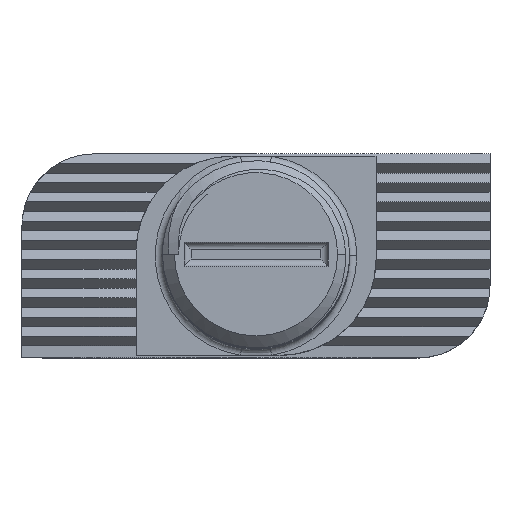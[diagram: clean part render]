
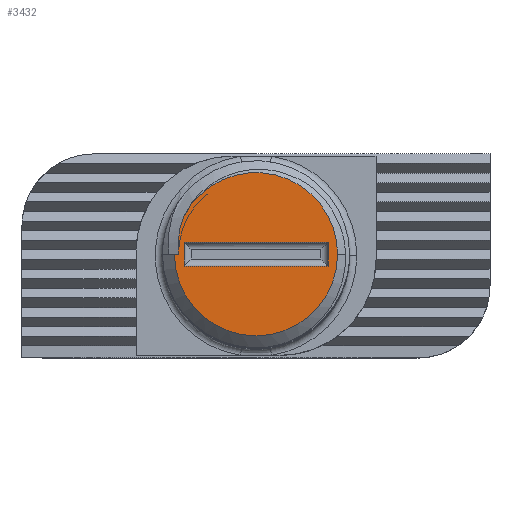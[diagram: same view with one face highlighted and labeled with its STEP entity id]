
A CAD part, top view. The second image highlights one B-rep face of the part: STEP entity #3432.
In plain terms, the highlighted planar face has unit normal (0, 0, 1).
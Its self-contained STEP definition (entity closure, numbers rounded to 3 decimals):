
#70 = ORIENTED_EDGE ( 'NONE', *, *, #2566, .F. ) ;
#188 = CARTESIAN_POINT ( 'NONE',  ( -3.75, -0.103, 44.5 ) ) ;
#217 = CARTESIAN_POINT ( 'NONE',  ( -3.931, 1.463, 44.5 ) ) ;
#399 = VERTEX_POINT ( 'NONE', #4145 ) ;
#573 = CARTESIAN_POINT ( 'NONE',  ( -4.15, 0.397, 44.5 ) ) ;
#637 = ORIENTED_EDGE ( 'NONE', *, *, #2661, .T. ) ;
#702 = CARTESIAN_POINT ( 'NONE',  ( -0.75, 0.397, 44.5 ) ) ;
#766 = CARTESIAN_POINT ( 'NONE',  ( -0.75, 0.397, 44.5 ) ) ;
#818 = CARTESIAN_POINT ( 'NONE',  ( -3.762, 1.974, 44.5 ) ) ;
#970 = LINE ( 'NONE', #188, #6508 ) ;
#1275 = AXIS2_PLACEMENT_3D ( 'NONE', #5320, #1931, #5889 ) ;
#1293 = DIRECTION ( 'NONE',  ( 1., 0., 0. ) ) ;
#1297 = ORIENTED_EDGE ( 'NONE', *, *, #2671, .F. ) ;
#1329 = CARTESIAN_POINT ( 'NONE',  ( -3.75, 0.897, 44.5 ) ) ;
#1414 = CARTESIAN_POINT ( 'NONE',  ( -0.75, 0.397, 44.5 ) ) ;
#1728 = VERTEX_POINT ( 'NONE', #4618 ) ;
#1858 = DIRECTION ( 'NONE',  ( 0., -1., 0. ) ) ;
#1931 = DIRECTION ( 'NONE',  ( 0., 0., 1. ) ) ;
#1977 = DIRECTION ( 'NONE',  ( 0., 0., 1. ) ) ;
#2201 = EDGE_LOOP ( 'NONE', ( #2746, #70, #3668, #3497 ) ) ;
#2409 = EDGE_LOOP ( 'NONE', ( #637, #4703, #7165, #1297 ) ) ;
#2463 = CARTESIAN_POINT ( 'NONE',  ( 2.25, 0.897, 44.5 ) ) ;
#2468 = CARTESIAN_POINT ( 'NONE',  ( -3.762, 1.974, 44.5 ) ) ;
#2531 = EDGE_CURVE ( 'NONE', #2928, #1728, #6571, .T. ) ;
#2566 = EDGE_CURVE ( 'NONE', #4641, #2928, #6549, .T. ) ;
#2575 = EDGE_CURVE ( 'NONE', #4769, #4641, #6580, .T. ) ;
#2623 = EDGE_CURVE ( 'NONE', #1728, #4769, #970, .T. ) ;
#2661 = EDGE_CURVE ( 'NONE', #399, #6620, #6537, .T. ) ;
#2671 = EDGE_CURVE ( 'NONE', #399, #5979, #4233, .T. ) ;
#2746 = ORIENTED_EDGE ( 'NONE', *, *, #2531, .F. ) ;
#2928 = VERTEX_POINT ( 'NONE', #3935 ) ;
#2983 = CARTESIAN_POINT ( 'NONE',  ( 2.65, 0.397, 44.5 ) ) ;
#3091 = CARTESIAN_POINT ( 'NONE',  ( -3.983, 0.397, 44.5 ) ) ;
#3263 = EDGE_CURVE ( 'NONE', #6620, #4943, #6033, .T. ) ;
#3432 = ADVANCED_FACE ( 'NONE', ( #5907, #5948 ), #6471, .T. ) ;
#3497 = ORIENTED_EDGE ( 'NONE', *, *, #2623, .F. ) ;
#3668 = ORIENTED_EDGE ( 'NONE', *, *, #2575, .F. ) ;
#3704 = CARTESIAN_POINT ( 'NONE',  ( -4.005, 0.933, 44.5 ) ) ;
#3935 = CARTESIAN_POINT ( 'NONE',  ( -3.75, 0.897, 44.5 ) ) ;
#4145 = CARTESIAN_POINT ( 'NONE',  ( -3.983, 0.397, 44.5 ) ) ;
#4214 = AXIS2_PLACEMENT_3D ( 'NONE', #1414, #1977, #5939 ) ;
#4233 = B_SPLINE_CURVE_WITH_KNOTS ( 'NONE', 3,
 ( #3091, #5896, #3704, #217, #4298, #818 ),
 .UNSPECIFIED., .F., .F.,
 ( 4, 2, 4 ),
 ( 0., 0.001, 0.002 ),
 .UNSPECIFIED. ) ;
#4298 = CARTESIAN_POINT ( 'NONE',  ( -3.861, 1.727, 44.5 ) ) ;
#4618 = CARTESIAN_POINT ( 'NONE',  ( -3.75, -0.103, 44.5 ) ) ;
#4629 = EDGE_CURVE ( 'NONE', #4943, #5979, #4979, .T. ) ;
#4641 = VERTEX_POINT ( 'NONE', #4798 ) ;
#4703 = ORIENTED_EDGE ( 'NONE', *, *, #3263, .T. ) ;
#4730 = DIRECTION ( 'NONE',  ( 0., 0., 1. ) ) ;
#4741 = CARTESIAN_POINT ( 'NONE',  ( -3.75, 0.897, 44.5 ) ) ;
#4760 = DIRECTION ( 'NONE',  ( 0., 1., 0. ) ) ;
#4769 = VERTEX_POINT ( 'NONE', #4838 ) ;
#4798 = CARTESIAN_POINT ( 'NONE',  ( 2.25, 0.897, 44.5 ) ) ;
#4838 = CARTESIAN_POINT ( 'NONE',  ( 2.25, -0.103, 44.5 ) ) ;
#4943 = VERTEX_POINT ( 'NONE', #2983 ) ;
#4979 = CIRCLE ( 'NONE', #1275, 3.4 ) ;
#5225 = AXIS2_PLACEMENT_3D ( 'NONE', #702, #4730, #1293 ) ;
#5320 = CARTESIAN_POINT ( 'NONE',  ( -0.75, 0.397, 44.5 ) ) ;
#5323 = DIRECTION ( 'NONE',  ( -1., 0., 0. ) ) ;
#5842 = DIRECTION ( 'NONE',  ( -1., 0., 0. ) ) ;
#5889 = DIRECTION ( 'NONE',  ( 1., 0., 0. ) ) ;
#5896 = CARTESIAN_POINT ( 'NONE',  ( -4.01, 0.666, 44.5 ) ) ;
#5907 = FACE_BOUND ( 'NONE', #2201, .T. ) ;
#5939 = DIRECTION ( 'NONE',  ( 1., 0., 0. ) ) ;
#5948 = FACE_OUTER_BOUND ( 'NONE', #2409, .T. ) ;
#5979 = VERTEX_POINT ( 'NONE', #2468 ) ;
#6033 = CIRCLE ( 'NONE', #5225, 3.4 ) ;
#6471 = PLANE ( 'NONE',  #4214 ) ;
#6487 = VECTOR ( 'NONE', #5323, 1000. ) ;
#6508 = VECTOR ( 'NONE', #7019, 1000. ) ;
#6537 = LINE ( 'NONE', #766, #6487 ) ;
#6545 = VECTOR ( 'NONE', #5842, 1000. ) ;
#6549 = LINE ( 'NONE', #1329, #6545 ) ;
#6557 = VECTOR ( 'NONE', #4760, 1000. ) ;
#6571 = LINE ( 'NONE', #4741, #6612 ) ;
#6580 = LINE ( 'NONE', #2463, #6557 ) ;
#6612 = VECTOR ( 'NONE', #1858, 1000. ) ;
#6620 = VERTEX_POINT ( 'NONE', #573 ) ;
#7019 = DIRECTION ( 'NONE',  ( 1., 0., 0. ) ) ;
#7165 = ORIENTED_EDGE ( 'NONE', *, *, #4629, .T. ) ;
